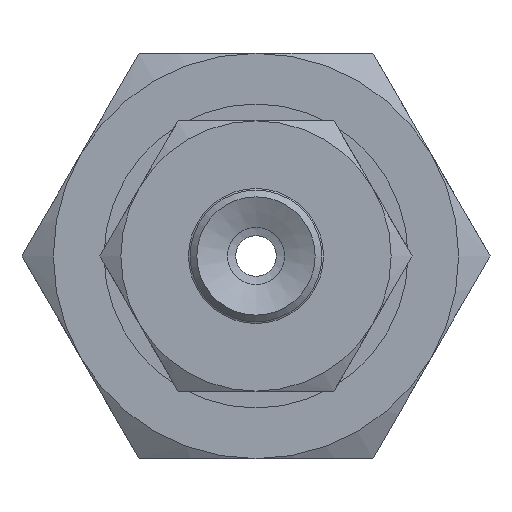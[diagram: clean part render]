
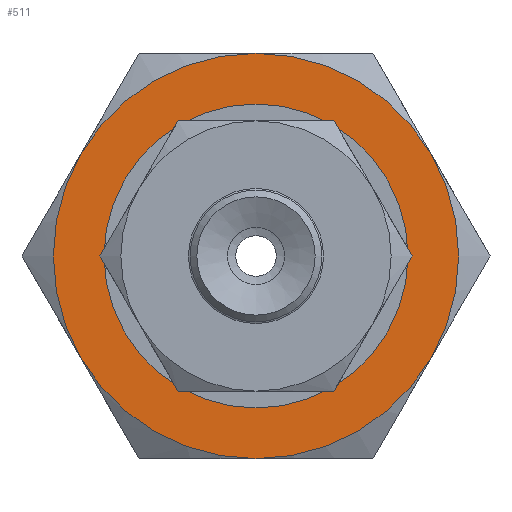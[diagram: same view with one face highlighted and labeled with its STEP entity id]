
A CAD part, front view. The second image highlights one B-rep face of the part: STEP entity #511.
In plain terms, the highlighted planar face has unit normal (0, -1, 0) as drawn and (-1, 0, 0) by its records, which use the part's own axes.
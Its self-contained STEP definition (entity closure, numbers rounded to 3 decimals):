
#511=ADVANCED_FACE('',(#701,#702),#703,.F.);
#701=FACE_BOUND('',#990,.T.);
#702=FACE_OUTER_BOUND('',#991,.T.);
#703=PLANE('',#992);
#990=EDGE_LOOP('',(#1570));
#991=EDGE_LOOP('',(#1571,#1572,#1573,#1574,#1575,#1576));
#992=AXIS2_PLACEMENT_3D('',#1577,#1578,#1579);
#1570=ORIENTED_EDGE('',*,*,#2062,.T.);
#1571=ORIENTED_EDGE('',*,*,#2040,.F.);
#1572=ORIENTED_EDGE('',*,*,#2052,.F.);
#1573=ORIENTED_EDGE('',*,*,#2049,.F.);
#1574=ORIENTED_EDGE('',*,*,#2063,.F.);
#1575=ORIENTED_EDGE('',*,*,#2064,.F.);
#1576=ORIENTED_EDGE('',*,*,#2031,.F.);
#1577=CARTESIAN_POINT('',(0.,0.0,0.0));
#1578=DIRECTION('',(1.0,0.0,0.0));
#1579=DIRECTION('',(0.0,1.0,0.0));
#2031=EDGE_CURVE('',#2297,#2298,#2299,.T.);
#2040=EDGE_CURVE('',#2312,#2297,#2315,.T.);
#2049=EDGE_CURVE('',#2329,#2330,#2331,.T.);
#2052=EDGE_CURVE('',#2330,#2312,#2335,.T.);
#2062=EDGE_CURVE('',#2351,#2351,#2352,.T.);
#2063=EDGE_CURVE('',#2353,#2329,#2354,.T.);
#2064=EDGE_CURVE('',#2298,#2353,#2355,.T.);
#2297=VERTEX_POINT('',#2739);
#2298=VERTEX_POINT('',#2740);
#2299=CIRCLE('',#2741,6.0);
#2312=VERTEX_POINT('',#2796);
#2315=CIRCLE('',#2819,6.0);
#2329=VERTEX_POINT('',#2884);
#2330=VERTEX_POINT('',#2885);
#2331=CIRCLE('',#2886,6.0);
#2335=CIRCLE('',#2910,6.0);
#2351=VERTEX_POINT('',#2976);
#2352=CIRCLE('',#2977,4.0);
#2353=VERTEX_POINT('',#2978);
#2354=CIRCLE('',#2979,6.0);
#2355=CIRCLE('',#2980,6.0);
#2739=CARTESIAN_POINT('',(0.,5.196,3.0));
#2740=CARTESIAN_POINT('',(0.,0.0,6.0));
#2741=AXIS2_PLACEMENT_3D('',#3337,#3338,#3339);
#2796=CARTESIAN_POINT('',(0.,5.196,-3.0));
#2819=AXIS2_PLACEMENT_3D('',#3342,#3343,#3344);
#2884=CARTESIAN_POINT('',(0.,-5.196,-3.0));
#2885=CARTESIAN_POINT('',(0.,0.0,-6.0));
#2886=AXIS2_PLACEMENT_3D('',#3352,#3353,#3354);
#2910=AXIS2_PLACEMENT_3D('',#3355,#3356,#3357);
#2976=CARTESIAN_POINT('',(0.,0.0,-4.0));
#2977=AXIS2_PLACEMENT_3D('',#3370,#3371,#3372);
#2978=CARTESIAN_POINT('',(0.,-5.196,3.0));
#2979=AXIS2_PLACEMENT_3D('',#3373,#3374,#3375);
#2980=AXIS2_PLACEMENT_3D('',#3376,#3377,#3378);
#3337=CARTESIAN_POINT('',(0.,0.0,0.0));
#3338=DIRECTION('',(1.0,0.0,0.0));
#3339=DIRECTION('',(0.0,0.0,-1.0));
#3342=CARTESIAN_POINT('',(0.,0.0,0.0));
#3343=DIRECTION('',(1.0,0.0,0.0));
#3344=DIRECTION('',(0.0,0.0,-1.0));
#3352=CARTESIAN_POINT('',(0.,0.0,0.0));
#3353=DIRECTION('',(1.0,0.0,0.0));
#3354=DIRECTION('',(0.0,0.0,-1.0));
#3355=CARTESIAN_POINT('',(0.,0.0,0.0));
#3356=DIRECTION('',(1.0,0.0,0.0));
#3357=DIRECTION('',(0.0,0.0,-1.0));
#3370=CARTESIAN_POINT('',(0.,0.0,0.0));
#3371=DIRECTION('',(1.0,0.0,0.0));
#3372=DIRECTION('',(0.0,0.0,-1.0));
#3373=CARTESIAN_POINT('',(0.,0.0,0.0));
#3374=DIRECTION('',(1.0,0.0,0.0));
#3375=DIRECTION('',(0.0,0.0,-1.0));
#3376=CARTESIAN_POINT('',(0.,0.0,0.0));
#3377=DIRECTION('',(1.0,0.0,0.0));
#3378=DIRECTION('',(0.0,0.0,-1.0));
